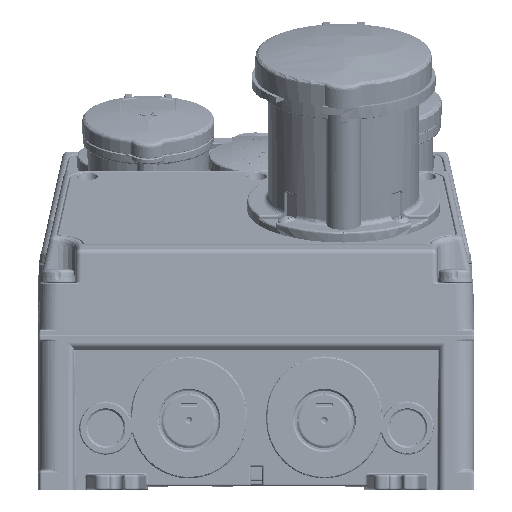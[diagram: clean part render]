
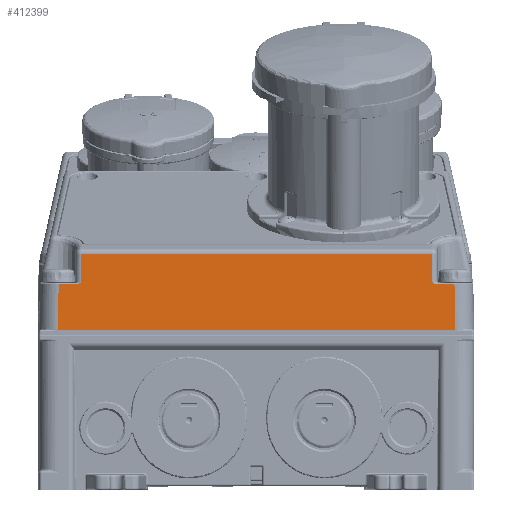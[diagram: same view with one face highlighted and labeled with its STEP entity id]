
A CAD part, front view. The second image highlights one B-rep face of the part: STEP entity #412399.
In plain terms, the highlighted planar face has unit normal (0, -1, 0.018).
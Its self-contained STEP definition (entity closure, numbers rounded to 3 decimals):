
#299483=DIRECTION('',(1.,0.,0.));
#299484=VECTOR('',#299483,205.482);
#299485=CARTESIAN_POINT('',(9.759,0.01,
82.6));
#299486=LINE('41416',#299485,#299484);
#299490=CARTESIAN_POINT('',(215.241,0.01,
82.6));
#301189=CARTESIAN_POINT('',(203.146,0.445,
107.491));
#301202=CARTESIAN_POINT('',(205.578,0.428,
106.509));
#301203=CARTESIAN_POINT('',(205.51,0.428,
106.509));
#301204=CARTESIAN_POINT('',(205.368,0.428,
106.515));
#301205=CARTESIAN_POINT('',(205.138,0.428,
106.548));
#301206=CARTESIAN_POINT('',(204.883,0.43,
106.608));
#301207=CARTESIAN_POINT('',(204.599,0.431,
106.701));
#301208=CARTESIAN_POINT('',(204.285,0.433,
106.834));
#301209=CARTESIAN_POINT('',(203.941,0.437,
107.009));
#301210=CARTESIAN_POINT('',(203.565,0.44,
107.227));
#301211=CARTESIAN_POINT('',(203.29,0.443,
107.4));
#301212=CARTESIAN_POINT('',(203.146,0.445,
107.491));
#301217=DIRECTION('',(-1.,0.,0.));
#301218=VECTOR('',#301217,9.246);
#301219=CARTESIAN_POINT('',(214.824,0.428,
106.509));
#301220=LINE('41626',#301219,#301218);
#301224=CARTESIAN_POINT('',(205.578,0.428,
106.509));
#301235=DIRECTION('',(0.017,-0.017,-1.));
#301236=VECTOR('',#301235,23.916);
#301237=CARTESIAN_POINT('',(214.824,0.428,
106.509));
#301238=LINE('41410',#301237,#301236);
#301242=DIRECTION('',(0.017,0.017,1.));
#301243=VECTOR('',#301242,23.916);
#301244=CARTESIAN_POINT('',(9.759,0.01,
82.6));
#301245=LINE('41627',#301244,#301243);
#301249=DIRECTION('',(0.009,0.017,1.));
#301250=VECTOR('',#301249,14.45);
#301251=CARTESIAN_POINT('',(21.854,0.445,
107.491));
#301252=LINE('41630',#301251,#301250);
#301256=DIRECTION('',(0.009,-0.017,-1.));
#301257=VECTOR('',#301256,14.45);
#301258=CARTESIAN_POINT('',(203.02,0.697,
121.938));
#301259=LINE('41632',#301258,#301257);
#302429=DIRECTION('',(-1.,0.,0.));
#302430=VECTOR('',#302429,181.04);
#302431=CARTESIAN_POINT('',(203.02,0.697,
121.938));
#302432=LINE('41631',#302431,#302430);
#302499=CARTESIAN_POINT('',(21.854,0.445,
107.491));
#302500=CARTESIAN_POINT('',(21.71,0.443,
107.4));
#302501=CARTESIAN_POINT('',(21.435,0.44,
107.227));
#302502=CARTESIAN_POINT('',(21.06,0.437,
107.009));
#302503=CARTESIAN_POINT('',(20.715,0.433,
106.834));
#302504=CARTESIAN_POINT('',(20.401,0.431,
106.701));
#302505=CARTESIAN_POINT('',(20.117,0.43,
106.608));
#302506=CARTESIAN_POINT('',(19.862,0.428,
106.548));
#302507=CARTESIAN_POINT('',(19.632,0.428,
106.515));
#302508=CARTESIAN_POINT('',(19.49,0.428,
106.509));
#302509=CARTESIAN_POINT('',(19.422,0.428,
106.509));
#302525=DIRECTION('',(-1.,0.,0.));
#302526=VECTOR('',#302525,9.246);
#302527=CARTESIAN_POINT('',(19.422,0.428,
106.509));
#302528=LINE('41628',#302527,#302526);
#392373=VERTEX_POINT('',#299490);
#392374=CARTESIAN_POINT('',(214.824,0.428,
106.509));
#392375=VERTEX_POINT('',#392374);
#392382=CARTESIAN_POINT('',(9.759,0.01,
82.6));
#392383=VERTEX_POINT('',#392382);
#392616=VERTEX_POINT('',#301189);
#392617=VERTEX_POINT('',#301224);
#392618=CARTESIAN_POINT('',(10.176,0.428,
106.509));
#392619=VERTEX_POINT('',#392618);
#392620=CARTESIAN_POINT('',(19.422,0.428,
106.509));
#392621=VERTEX_POINT('',#392620);
#392622=VERTEX_POINT('',#302499);
#392623=CARTESIAN_POINT('',(21.98,0.697,
121.938));
#392624=VERTEX_POINT('',#392623);
#392625=CARTESIAN_POINT('',(203.02,0.697,
121.938));
#392626=VERTEX_POINT('',#392625);
#412376=CARTESIAN_POINT('',(0.,0.733,124.));
#412377=DIRECTION('',(0.,-1.,0.017));
#412378=DIRECTION('',(0.,-0.017,-1.));
#412379=AXIS2_PLACEMENT_3D('',#412376,#412377,#412378);
#412380=PLANE('52051',#412379);
#412381=ORIENTED_EDGE('41410',*,*,#410494,.T.);
#412382=ORIENTED_EDGE('41416',*,*,#410524,.F.);
#412384=ORIENTED_EDGE('41627',*,*,#412383,.T.);
#412386=ORIENTED_EDGE('41628',*,*,#412385,.F.);
#412388=ORIENTED_EDGE('41629',*,*,#412387,.F.);
#412390=ORIENTED_EDGE('41630',*,*,#412389,.T.);
#412392=ORIENTED_EDGE('41631',*,*,#412391,.F.);
#412394=ORIENTED_EDGE('41632',*,*,#412393,.T.);
#412395=ORIENTED_EDGE('41625',*,*,#412344,.F.);
#412396=ORIENTED_EDGE('41626',*,*,#412363,.F.);
#412397=EDGE_LOOP('52051',(#412381,#412382,#412384,#412386,#412388,#412390,
#412392,#412394,#412395,#412396));
#412398=FACE_OUTER_BOUND('52051',#412397,.F.);
#301213=B_SPLINE_CURVE_WITH_KNOTS('41625',3,(#301202,#301203,#301204,#301205,
#301206,#301207,#301208,#301209,#301210,#301211,#301212),.UNSPECIFIED.,.F.,.F.,(
4,1,1,1,1,1,1,1,4),(0.,0.125,0.25,0.375,0.5,0.625,0.75,0.875,
1.),.UNSPECIFIED.);
#302510=B_SPLINE_CURVE_WITH_KNOTS('41629',3,(#302499,#302500,#302501,#302502,
#302503,#302504,#302505,#302506,#302507,#302508,#302509),.UNSPECIFIED.,.F.,.F.,(
4,1,1,1,1,1,1,1,4),(0.,0.125,0.25,0.375,0.5,0.625,0.75,0.875,
1.),.UNSPECIFIED.);
#410494=EDGE_CURVE('41410',#392375,#392373,#301238,.T.);
#410524=EDGE_CURVE('41416',#392383,#392373,#299486,.T.);
#412344=EDGE_CURVE('41625',#392617,#392616,#301213,.T.);
#412363=EDGE_CURVE('41626',#392375,#392617,#301220,.T.);
#412383=EDGE_CURVE('41627',#392383,#392619,#301245,.T.);
#412385=EDGE_CURVE('41628',#392621,#392619,#302528,.T.);
#412387=EDGE_CURVE('41629',#392622,#392621,#302510,.T.);
#412389=EDGE_CURVE('41630',#392622,#392624,#301252,.T.);
#412391=EDGE_CURVE('41631',#392626,#392624,#302432,.T.);
#412393=EDGE_CURVE('41632',#392626,#392616,#301259,.T.);
#412399=ADVANCED_FACE('52051',(#412398),#412380,.T.);
